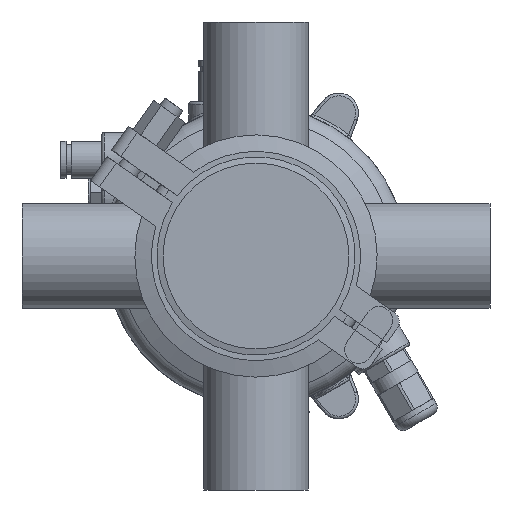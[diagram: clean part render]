
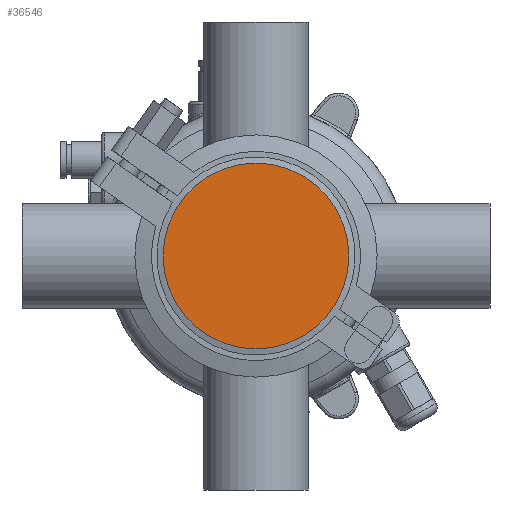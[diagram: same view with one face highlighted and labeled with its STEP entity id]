
A CAD part, front view. The second image highlights one B-rep face of the part: STEP entity #36546.
In plain terms, the highlighted planar face has unit normal (0, -1, 0).
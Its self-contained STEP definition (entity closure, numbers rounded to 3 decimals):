
#1870 = CARTESIAN_POINT ( 'NONE',  ( 0., 0., 0. ) ) ;
#4065 = VERTEX_POINT ( 'NONE', #50653 ) ;
#21951 = DIRECTION ( 'NONE',  ( 0., 0., -1. ) ) ;
#22157 = AXIS2_PLACEMENT_3D ( 'NONE', #1870, #52138, #24867 ) ;
#22555 = PLANE ( 'NONE',  #23490 ) ;
#23490 = AXIS2_PLACEMENT_3D ( 'NONE', #41058, #26506, #21951 ) ;
#24867 = DIRECTION ( 'NONE',  ( 0., 0., 1. ) ) ;
#26506 = DIRECTION ( 'NONE',  ( 0., -1., 0. ) ) ;
#36546 = ADVANCED_FACE ( 'NONE', ( #44971 ), #22555, .T. ) ;
#40347 = ORIENTED_EDGE ( 'NONE', *, *, #51259, .F. ) ;
#41058 = CARTESIAN_POINT ( 'NONE',  ( -33.75, 0., 0. ) ) ;
#44971 = FACE_OUTER_BOUND ( 'NONE', #57669, .T. ) ;
#50653 = CARTESIAN_POINT ( 'NONE',  ( 0., 0., 33.75 ) ) ;
#51259 = EDGE_CURVE ( 'NONE', #4065, #4065, #55989, .T. ) ;
#52138 = DIRECTION ( 'NONE',  ( 0., 1., 0. ) ) ;
#55989 = CIRCLE ( 'NONE', #22157, 33.75 ) ;
#57669 = EDGE_LOOP ( 'NONE', ( #40347 ) ) ;
